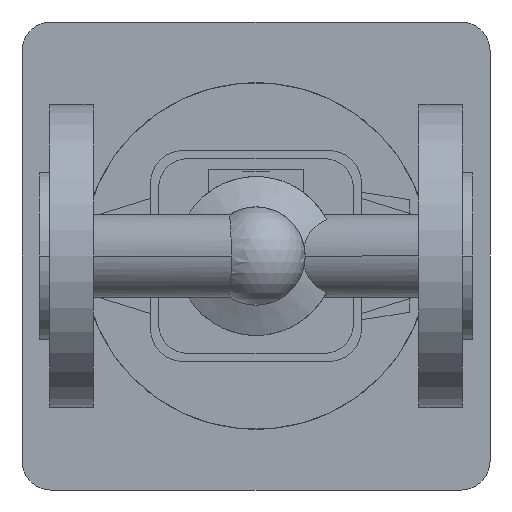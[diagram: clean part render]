
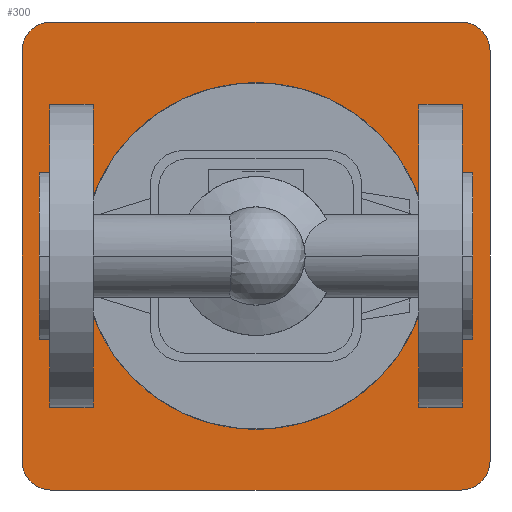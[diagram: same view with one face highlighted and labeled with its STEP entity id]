
A CAD part, front view. The second image highlights one B-rep face of the part: STEP entity #300.
In plain terms, the highlighted planar face has unit normal (0, -1, 0).
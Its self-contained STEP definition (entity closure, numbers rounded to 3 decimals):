
#300 = ADVANCED_FACE( '', ( #719, #720 ), #721, .F. );
#719 = FACE_OUTER_BOUND( '', #1164, .T. );
#720 = FACE_BOUND( '', #1165, .T. );
#721 = PLANE( '', #1166 );
#1164 = EDGE_LOOP( '', ( #2616, #2617, #2618, #2619, #2620, #2621, #2622, #2623 ) );
#1165 = EDGE_LOOP( '', ( #2624, #2625 ) );
#1166 = AXIS2_PLACEMENT_3D( '', #2626, #2627, #2628 );
#2616 = ORIENTED_EDGE( '', *, *, #3242, .F. );
#2617 = ORIENTED_EDGE( '', *, *, #3243, .F. );
#2618 = ORIENTED_EDGE( '', *, *, #3244, .F. );
#2619 = ORIENTED_EDGE( '', *, *, #3245, .F. );
#2620 = ORIENTED_EDGE( '', *, *, #3246, .F. );
#2621 = ORIENTED_EDGE( '', *, *, #3247, .F. );
#2622 = ORIENTED_EDGE( '', *, *, #3248, .F. );
#2623 = ORIENTED_EDGE( '', *, *, #3249, .F. );
#2624 = ORIENTED_EDGE( '', *, *, #3157, .F. );
#2625 = ORIENTED_EDGE( '', *, *, #3250, .F. );
#2626 = CARTESIAN_POINT( '', ( 75., 583., 0. ) );
#2627 = DIRECTION( '', ( 0., 1., 0. ) );
#2628 = DIRECTION( '', ( 0., 0., 1. ) );
#3157 = EDGE_CURVE( '', #3894, #3897, #3898, .T. );
#3242 = EDGE_CURVE( '', #4041, #4042, #4043, .T. );
#3243 = EDGE_CURVE( '', #4044, #4041, #4045, .T. );
#3244 = EDGE_CURVE( '', #4046, #4044, #4047, .T. );
#3245 = EDGE_CURVE( '', #4048, #4046, #4049, .T. );
#3246 = EDGE_CURVE( '', #4050, #4048, #4051, .T. );
#3247 = EDGE_CURVE( '', #4052, #4050, #4053, .T. );
#3248 = EDGE_CURVE( '', #4054, #4052, #4055, .T. );
#3249 = EDGE_CURVE( '', #4042, #4054, #4056, .T. );
#3250 = EDGE_CURVE( '', #3897, #3894, #4057, .T. );
#3894 = VERTEX_POINT( '', #5217 );
#3897 = VERTEX_POINT( '', #5221 );
#3898 = CIRCLE( '', #5222, 40. );
#4041 = VERTEX_POINT( '', #5420 );
#4042 = VERTEX_POINT( '', #5421 );
#4043 = CIRCLE( '', #5422, 10. );
#4044 = VERTEX_POINT( '', #5423 );
#4045 = LINE( '', #5424, #5425 );
#4046 = VERTEX_POINT( '', #5426 );
#4047 = CIRCLE( '', #5427, 10. );
#4048 = VERTEX_POINT( '', #5428 );
#4049 = LINE( '', #5429, #5430 );
#4050 = VERTEX_POINT( '', #5431 );
#4051 = CIRCLE( '', #5432, 10. );
#4052 = VERTEX_POINT( '', #5433 );
#4053 = LINE( '', #5434, #5435 );
#4054 = VERTEX_POINT( '', #5436 );
#4055 = CIRCLE( '', #5437, 10. );
#4056 = LINE( '', #5438, #5439 );
#4057 = CIRCLE( '', #5440, 40. );
#5217 = CARTESIAN_POINT( '', ( 35., 583., 0. ) );
#5221 = CARTESIAN_POINT( '', ( 115., 583., 0. ) );
#5222 = AXIS2_PLACEMENT_3D( '', #6166, #6167, #6168 );
#5420 = CARTESIAN_POINT( '', ( -6., 583., 71. ) );
#5421 = CARTESIAN_POINT( '', ( 4., 583., 81. ) );
#5422 = AXIS2_PLACEMENT_3D( '', #6311, #6312, #6313 );
#5423 = CARTESIAN_POINT( '', ( -6., 583., -71. ) );
#5424 = CARTESIAN_POINT( '', ( -6., 583., -71. ) );
#5425 = VECTOR( '', #6314, 1. );
#5426 = CARTESIAN_POINT( '', ( 4., 583., -81. ) );
#5427 = AXIS2_PLACEMENT_3D( '', #6315, #6316, #6317 );
#5428 = CARTESIAN_POINT( '', ( 146., 583., -81. ) );
#5429 = CARTESIAN_POINT( '', ( 146., 583., -81. ) );
#5430 = VECTOR( '', #6318, 1. );
#5431 = CARTESIAN_POINT( '', ( 156., 583., -71. ) );
#5432 = AXIS2_PLACEMENT_3D( '', #6319, #6320, #6321 );
#5433 = CARTESIAN_POINT( '', ( 156., 583., 71. ) );
#5434 = CARTESIAN_POINT( '', ( 156., 583., 71. ) );
#5435 = VECTOR( '', #6322, 1. );
#5436 = CARTESIAN_POINT( '', ( 146., 583., 81. ) );
#5437 = AXIS2_PLACEMENT_3D( '', #6323, #6324, #6325 );
#5438 = CARTESIAN_POINT( '', ( 4., 583., 81. ) );
#5439 = VECTOR( '', #6326, 1. );
#5440 = AXIS2_PLACEMENT_3D( '', #6327, #6328, #6329 );
#6166 = CARTESIAN_POINT( '', ( 75., 583., 0. ) );
#6167 = DIRECTION( '', ( 0., -1., 0. ) );
#6168 = DIRECTION( '', ( -1., 0., 0. ) );
#6311 = CARTESIAN_POINT( '', ( 4., 583., 71. ) );
#6312 = DIRECTION( '', ( 0., 1., 0. ) );
#6313 = DIRECTION( '', ( -1., 0., 0. ) );
#6314 = DIRECTION( '', ( 0., 0., 1. ) );
#6315 = CARTESIAN_POINT( '', ( 4., 583., -71. ) );
#6316 = DIRECTION( '', ( 0., 1., 0. ) );
#6317 = DIRECTION( '', ( 0., 0., -1. ) );
#6318 = DIRECTION( '', ( -1., 0., 0. ) );
#6319 = CARTESIAN_POINT( '', ( 146., 583., -71. ) );
#6320 = DIRECTION( '', ( 0., 1., 0. ) );
#6321 = DIRECTION( '', ( 1., 0., 0. ) );
#6322 = DIRECTION( '', ( 0., 0., -1. ) );
#6323 = CARTESIAN_POINT( '', ( 146., 583., 71. ) );
#6324 = DIRECTION( '', ( 0., 1., 0. ) );
#6325 = DIRECTION( '', ( 0., 0., 1. ) );
#6326 = DIRECTION( '', ( 1., 0., 0. ) );
#6327 = CARTESIAN_POINT( '', ( 75., 583., 0. ) );
#6328 = DIRECTION( '', ( 0., -1., 0. ) );
#6329 = DIRECTION( '', ( -1., 0., 0. ) );
